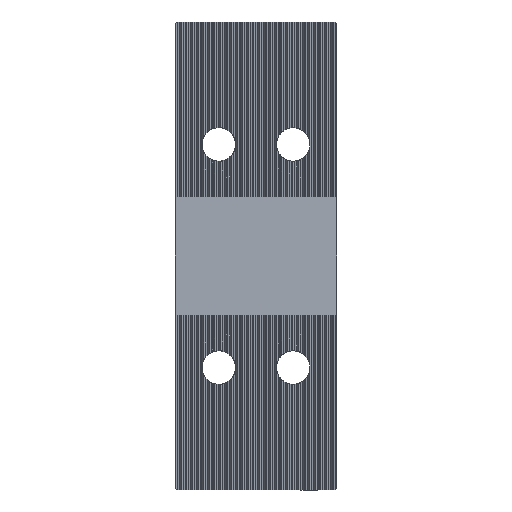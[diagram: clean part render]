
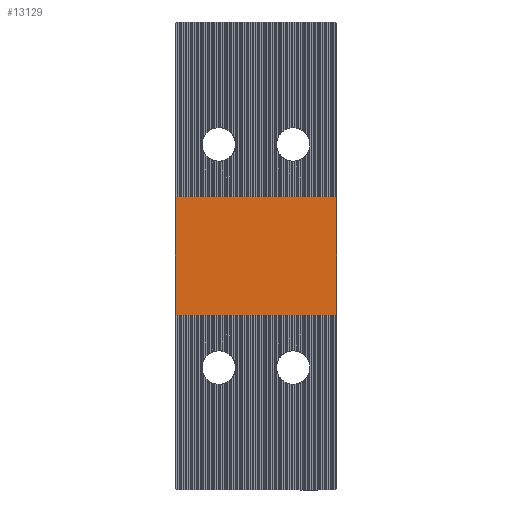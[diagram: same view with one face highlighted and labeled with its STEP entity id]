
A CAD part, front view. The second image highlights one B-rep face of the part: STEP entity #13129.
In plain terms, the highlighted planar face has unit normal (0, -1, 0).
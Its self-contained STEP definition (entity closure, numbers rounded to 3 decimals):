
#1022 = EDGE_CURVE ( 'NONE', #7317, #8267, #14688, .T. ) ;
#1096 = CARTESIAN_POINT ( 'NONE',  ( 47.15, 3., 16. ) ) ;
#1194 = DIRECTION ( 'NONE',  ( 0., 0., 1. ) ) ;
#2218 = CARTESIAN_POINT ( 'NONE',  ( 3.65, 3., -16. ) ) ;
#2361 = EDGE_CURVE ( 'NONE', #8267, #10094, #11698, .T. ) ;
#3182 = ORIENTED_EDGE ( 'NONE', *, *, #15511, .F. ) ;
#3683 = FACE_OUTER_BOUND ( 'NONE', #10256, .T. ) ;
#4258 = CARTESIAN_POINT ( 'NONE',  ( 3.65, 3., 16. ) ) ;
#5394 = CARTESIAN_POINT ( 'NONE',  ( 47.15, 3., -16. ) ) ;
#5410 = VECTOR ( 'NONE', #1194, 1000. ) ;
#7148 = ORIENTED_EDGE ( 'NONE', *, *, #1022, .T. ) ;
#7317 = VERTEX_POINT ( 'NONE', #5394 ) ;
#7522 = ORIENTED_EDGE ( 'NONE', *, *, #9463, .T. ) ;
#7762 = LINE ( 'NONE', #15898, #18710 ) ;
#8267 = VERTEX_POINT ( 'NONE', #11635 ) ;
#8403 = VERTEX_POINT ( 'NONE', #2218 ) ;
#8576 = LINE ( 'NONE', #11535, #11319 ) ;
#9463 = EDGE_CURVE ( 'NONE', #10094, #8403, #7762, .T. ) ;
#10094 = VERTEX_POINT ( 'NONE', #4258 ) ;
#10256 = EDGE_LOOP ( 'NONE', ( #7148, #14496, #7522, #3182 ) ) ;
#11319 = VECTOR ( 'NONE', #16328, 1000. ) ;
#11504 = DIRECTION ( 'NONE',  ( 0., 0., -1. ) ) ;
#11535 = CARTESIAN_POINT ( 'NONE',  ( 79.708, 3., -16. ) ) ;
#11635 = CARTESIAN_POINT ( 'NONE',  ( 47.15, 3., 16. ) ) ;
#11698 = LINE ( 'NONE', #17803, #13039 ) ;
#13039 = VECTOR ( 'NONE', #15884, 1000. ) ;
#13129 = ADVANCED_FACE ( 'NONE', ( #3683 ), #17490, .F. ) ;
#14394 = DIRECTION ( 'NONE',  ( 0., 1., 0. ) ) ;
#14496 = ORIENTED_EDGE ( 'NONE', *, *, #2361, .T. ) ;
#14688 = LINE ( 'NONE', #1096, #5410 ) ;
#15511 = EDGE_CURVE ( 'NONE', #7317, #8403, #8576, .T. ) ;
#15884 = DIRECTION ( 'NONE',  ( -1., 0., 0. ) ) ;
#15898 = CARTESIAN_POINT ( 'NONE',  ( 3.65, 3., 16. ) ) ;
#16328 = DIRECTION ( 'NONE',  ( -1., 0., 0. ) ) ;
#17490 = PLANE ( 'NONE',  #19573 ) ;
#17803 = CARTESIAN_POINT ( 'NONE',  ( 79.708, 3., 16. ) ) ;
#18710 = VECTOR ( 'NONE', #11504, 1000. ) ;
#18889 = DIRECTION ( 'NONE',  ( -1., 0., 0. ) ) ;
#18989 = CARTESIAN_POINT ( 'NONE',  ( 79.708, 3., 16. ) ) ;
#19573 = AXIS2_PLACEMENT_3D ( 'NONE', #18989, #14394, #18889 ) ;
